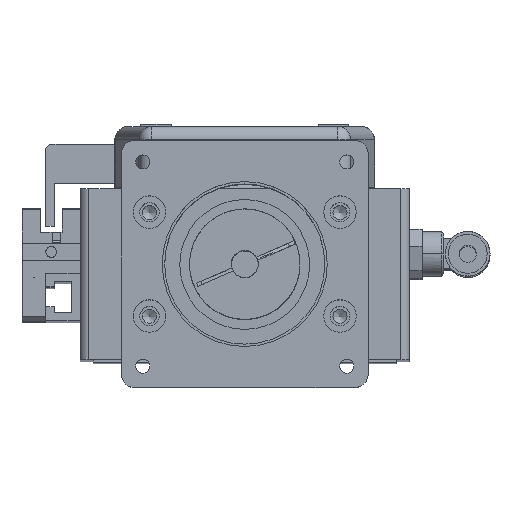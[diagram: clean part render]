
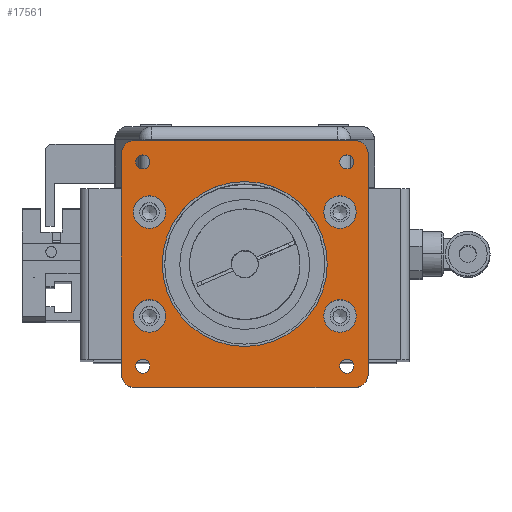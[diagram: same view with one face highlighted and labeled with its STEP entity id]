
A CAD part, top view. The second image highlights one B-rep face of the part: STEP entity #17561.
In plain terms, the highlighted planar face has unit normal (0, 0, 1).
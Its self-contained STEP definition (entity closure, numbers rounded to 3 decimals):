
#16346=CARTESIAN_POINT('',(-25.5,-28.5,12.));
#16347=VERTEX_POINT('',#16346);
#16348=CARTESIAN_POINT('',(-28.5,-25.5,12.));
#16349=VERTEX_POINT('',#16348);
#16350=CARTESIAN_POINT('',(-25.5,-25.5,12.));
#16351=DIRECTION('',(0.0,0.0,-1.));
#16352=DIRECTION('',(-0.707,-0.707,0.0));
#16353=AXIS2_PLACEMENT_3D('',#16350,#16351,#16352);
#16354=CIRCLE('',#16353,3.);
#16355=EDGE_CURVE('',#16347,#16349,#16354,.T.);
#16397=CARTESIAN_POINT('',(25.5,-28.5,12.));
#16398=VERTEX_POINT('',#16397);
#16405=CARTESIAN_POINT('',(25.5,-28.5,12.));
#16406=DIRECTION('',(-1.0,0.0,0.0));
#16407=VECTOR('',#16406,51.);
#16408=LINE('',#16405,#16407);
#16409=EDGE_CURVE('',#16398,#16347,#16408,.T.);
#16482=CARTESIAN_POINT('',(28.5,-25.5,12.));
#16483=VERTEX_POINT('',#16482);
#16484=CARTESIAN_POINT('',(25.5,-25.5,12.));
#16485=DIRECTION('',(0.0,0.0,-1.));
#16486=DIRECTION('',(0.707,-0.707,0.0));
#16487=AXIS2_PLACEMENT_3D('',#16484,#16485,#16486);
#16488=CIRCLE('',#16487,3.);
#16489=EDGE_CURVE('',#16483,#16398,#16488,.T.);
#16525=CARTESIAN_POINT('',(28.5,25.5,12.));
#16526=VERTEX_POINT('',#16525);
#16533=CARTESIAN_POINT('',(28.5,25.5,12.));
#16534=DIRECTION('',(0.0,-1.0,0.0));
#16535=VECTOR('',#16534,51.0);
#16536=LINE('',#16533,#16535);
#16537=EDGE_CURVE('',#16526,#16483,#16536,.T.);
#16547=CARTESIAN_POINT('',(-28.5,25.5,12.));
#16548=VERTEX_POINT('',#16547);
#16549=CARTESIAN_POINT('',(-25.5,28.5,12.));
#16550=VERTEX_POINT('',#16549);
#16551=CARTESIAN_POINT('',(-25.5,25.5,12.));
#16552=DIRECTION('',(0.0,0.0,-1.));
#16553=DIRECTION('',(-0.707,0.707,0.0));
#16554=AXIS2_PLACEMENT_3D('',#16551,#16552,#16553);
#16555=CIRCLE('',#16554,3.);
#16556=EDGE_CURVE('',#16548,#16550,#16555,.T.);
#16582=CARTESIAN_POINT('',(25.5,28.5,12.));
#16583=VERTEX_POINT('',#16582);
#16584=CARTESIAN_POINT('',(-25.5,28.5,12.));
#16585=DIRECTION('',(1.0,0.0,0.0));
#16586=VECTOR('',#16585,51.);
#16587=LINE('',#16584,#16586);
#16588=EDGE_CURVE('',#16550,#16583,#16587,.T.);
#16609=CARTESIAN_POINT('',(25.5,25.5,12.));
#16610=DIRECTION('',(0.0,0.0,-1.0));
#16611=DIRECTION('',(0.707,0.707,0.0));
#16612=AXIS2_PLACEMENT_3D('',#16609,#16610,#16611);
#16613=CIRCLE('',#16612,3.);
#16614=EDGE_CURVE('',#16583,#16526,#16613,.T.);
#16891=CARTESIAN_POINT('',(25.196,-23.575,12.));
#16892=VERTEX_POINT('',#16891);
#16893=CARTESIAN_POINT('',(23.575,-23.575,12.));
#16894=DIRECTION('',(0.0,0.0,-1.0));
#16895=DIRECTION('',(1.0,0.0,0.0));
#16896=AXIS2_PLACEMENT_3D('',#16893,#16894,#16895);
#16897=CIRCLE('',#16896,1.621);
#16898=EDGE_CURVE('',#16892,#16892,#16897,.T.);
#16932=CARTESIAN_POINT('',(-21.954,23.575,12.));
#16933=VERTEX_POINT('',#16932);
#16934=CARTESIAN_POINT('',(-23.575,23.575,12.));
#16935=DIRECTION('',(0.0,0.0,-1.0));
#16936=DIRECTION('',(1.0,0.0,0.0));
#16937=AXIS2_PLACEMENT_3D('',#16934,#16935,#16936);
#16938=CIRCLE('',#16937,1.621);
#16939=EDGE_CURVE('',#16933,#16933,#16938,.T.);
#16973=CARTESIAN_POINT('',(25.196,23.575,12.));
#16974=VERTEX_POINT('',#16973);
#16975=CARTESIAN_POINT('',(23.575,23.575,12.));
#16976=DIRECTION('',(0.0,0.0,-1.0));
#16977=DIRECTION('',(1.0,0.0,0.0));
#16978=AXIS2_PLACEMENT_3D('',#16975,#16976,#16977);
#16979=CIRCLE('',#16978,1.621);
#16980=EDGE_CURVE('',#16974,#16974,#16979,.T.);
#17014=CARTESIAN_POINT('',(-21.954,-23.575,12.));
#17015=VERTEX_POINT('',#17014);
#17016=CARTESIAN_POINT('',(-23.575,-23.575,12.));
#17017=DIRECTION('',(0.0,0.0,-1.0));
#17018=DIRECTION('',(1.0,0.0,0.0));
#17019=AXIS2_PLACEMENT_3D('',#17016,#17017,#17018);
#17020=CIRCLE('',#17019,1.621);
#17021=EDGE_CURVE('',#17015,#17015,#17020,.T.);
#17080=CARTESIAN_POINT('',(25.75,-12.,12.));
#17081=VERTEX_POINT('',#17080);
#17082=CARTESIAN_POINT('',(22.0,-12.,12.));
#17083=DIRECTION('',(0.0,0.0,-1.0));
#17084=DIRECTION('',(1.0,0.0,0.0));
#17085=AXIS2_PLACEMENT_3D('',#17082,#17083,#17084);
#17086=CIRCLE('',#17085,3.75);
#17087=EDGE_CURVE('',#17081,#17081,#17086,.T.);
#17190=CARTESIAN_POINT('',(-18.25,12.,12.));
#17191=VERTEX_POINT('',#17190);
#17192=CARTESIAN_POINT('',(-22.0,12.,12.));
#17193=DIRECTION('',(0.0,0.0,-1.0));
#17194=DIRECTION('',(1.0,0.0,0.0));
#17195=AXIS2_PLACEMENT_3D('',#17192,#17193,#17194);
#17196=CIRCLE('',#17195,3.75);
#17197=EDGE_CURVE('',#17191,#17191,#17196,.T.);
#17300=CARTESIAN_POINT('',(25.75,12.,12.));
#17301=VERTEX_POINT('',#17300);
#17302=CARTESIAN_POINT('',(22.0,12.,12.));
#17303=DIRECTION('',(0.0,0.0,-1.0));
#17304=DIRECTION('',(1.0,0.0,0.0));
#17305=AXIS2_PLACEMENT_3D('',#17302,#17303,#17304);
#17306=CIRCLE('',#17305,3.75);
#17307=EDGE_CURVE('',#17301,#17301,#17306,.T.);
#17410=CARTESIAN_POINT('',(-18.25,-12.,12.));
#17411=VERTEX_POINT('',#17410);
#17412=CARTESIAN_POINT('',(-22.,-12.,12.));
#17413=DIRECTION('',(0.0,0.0,-1.0));
#17414=DIRECTION('',(1.0,0.0,0.0));
#17415=AXIS2_PLACEMENT_3D('',#17412,#17413,#17414);
#17416=CIRCLE('',#17415,3.75);
#17417=EDGE_CURVE('',#17411,#17411,#17416,.T.);
#17482=CARTESIAN_POINT('',(19.05,0.,12.));
#17483=VERTEX_POINT('',#17482);
#17484=CARTESIAN_POINT('',(0.0,0.0,12.));
#17485=DIRECTION('',(0.0,0.0,-1.0));
#17486=DIRECTION('',(-1.0,0.0,0.0));
#17487=AXIS2_PLACEMENT_3D('',#17484,#17485,#17486);
#17488=CIRCLE('',#17487,19.05);
#17489=EDGE_CURVE('',#17483,#17483,#17488,.T.);
#17514=CARTESIAN_POINT('',(0.0,0.,12.));
#17515=DIRECTION('',(0.0,0.0,1.0));
#17516=DIRECTION('',(1.0,0.0,0.0));
#17517=AXIS2_PLACEMENT_3D('',#17514,#17515,#17516);
#17518=PLANE('',#17517);
#17519=ORIENTED_EDGE('',*,*,#16355,.F.);
#17520=ORIENTED_EDGE('',*,*,#16409,.F.);
#17521=ORIENTED_EDGE('',*,*,#16489,.F.);
#17522=ORIENTED_EDGE('',*,*,#16537,.F.);
#17523=ORIENTED_EDGE('',*,*,#16614,.F.);
#17524=ORIENTED_EDGE('',*,*,#16588,.F.);
#17525=ORIENTED_EDGE('',*,*,#16556,.F.);
#17526=CARTESIAN_POINT('',(-28.5,-25.5,12.));
#17527=DIRECTION('',(0.0,1.0,0.0));
#17528=VECTOR('',#17527,51.0);
#17529=LINE('',#17526,#17528);
#17530=EDGE_CURVE('',#16349,#16548,#17529,.T.);
#17531=ORIENTED_EDGE('',*,*,#17530,.F.);
#17532=EDGE_LOOP('',(#17519,#17520,#17521,#17522,#17523,#17524,#17525,#17531));
#17533=FACE_OUTER_BOUND('',#17532,.T.);
#17534=ORIENTED_EDGE('',*,*,#16898,.T.);
#17535=EDGE_LOOP('',(#17534));
#17536=FACE_BOUND('',#17535,.T.);
#17537=ORIENTED_EDGE('',*,*,#16939,.T.);
#17538=EDGE_LOOP('',(#17537));
#17539=FACE_BOUND('',#17538,.T.);
#17540=ORIENTED_EDGE('',*,*,#16980,.T.);
#17541=EDGE_LOOP('',(#17540));
#17542=FACE_BOUND('',#17541,.T.);
#17543=ORIENTED_EDGE('',*,*,#17021,.T.);
#17544=EDGE_LOOP('',(#17543));
#17545=FACE_BOUND('',#17544,.T.);
#17546=ORIENTED_EDGE('',*,*,#17087,.T.);
#17547=EDGE_LOOP('',(#17546));
#17548=FACE_BOUND('',#17547,.T.);
#17549=ORIENTED_EDGE('',*,*,#17197,.T.);
#17550=EDGE_LOOP('',(#17549));
#17551=FACE_BOUND('',#17550,.T.);
#17552=ORIENTED_EDGE('',*,*,#17307,.T.);
#17553=EDGE_LOOP('',(#17552));
#17554=FACE_BOUND('',#17553,.T.);
#17555=ORIENTED_EDGE('',*,*,#17417,.T.);
#17556=EDGE_LOOP('',(#17555));
#17557=FACE_BOUND('',#17556,.T.);
#17558=ORIENTED_EDGE('',*,*,#17489,.T.);
#17559=EDGE_LOOP('',(#17558));
#17560=FACE_BOUND('',#17559,.T.);
#17561=ADVANCED_FACE('',(#17533,#17536,#17539,#17542,#17545,#17548,#17551,#17554,#17557,#17560),#17518,.T.);
